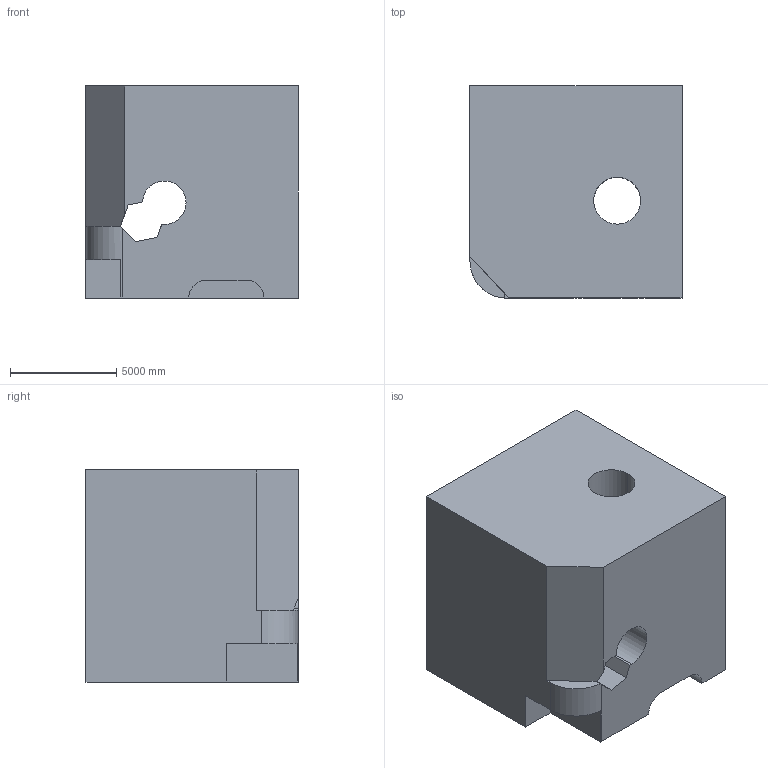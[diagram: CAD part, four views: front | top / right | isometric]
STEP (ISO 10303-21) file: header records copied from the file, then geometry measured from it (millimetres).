
FILE_DESCRIPTION (( 'STEP AP203' ), '1' );
FILE_NAME ('1920.STEP', '2022-08-23T09:29:29', ( 'user' ), ( '' ), 'SwSTEP 2.0', 'SolidWorks 2021', '' );
FILE_SCHEMA (( 'CONFIG_CONTROL_DESIGN' ));
Length unit declared in the file: centimetre
Products named in the file (1): 1920
Bounding box: 10000 x 10000 x 10000 mm (x, y, z)
Volume: 858108806640.9 mm3; surface area: 765178365.2 mm2
Topology: 1 solids, 1 shells, 40 faces, 114 edges, 76 vertices
Faces by surface type: plane 30, cylinder 10
Entity records: 1384 total; most frequent: CARTESIAN_POINT 237, ORIENTED_EDGE 228, DIRECTION 215, EDGE_CURVE 114, VECTOR 91, LINE 91, VERTEX_POINT 76, AXIS2_PLACEMENT_3D 62
